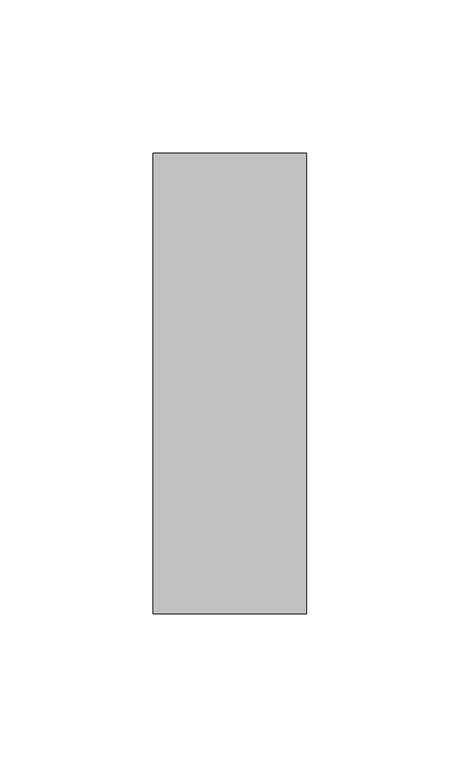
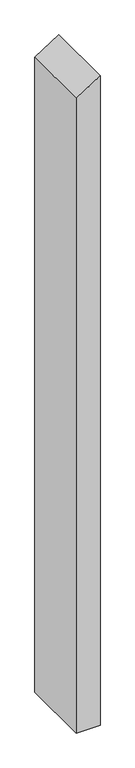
"""IFC4 building model written with IfcOpenShell, lengths in millimetres: member geometry, Прямоугольный импост : 50 x 150 мм."""

from ifc_helpers import new_model, si_unit, frame, origin, place, context, project, spatial, polyline, outline, extrude, source, transform, mapped, element, save


def member_1cecf3b3(model_context):
    return source(origin(), model_context, "Body", "SweptSolid", [
        extrude(outline(polyline([(0.0, 0.0), (-32.2412567, -50.0), (-1440.0, -50.0), (-1440.0, 0.0), (0.0, 0.0)])), frame((0.0, -75.0, 0.0), z_axis=(0.0, 1.0, 0.0), x_axis=(0.0, 0.0, 1.0)), (0.0, 0.0, 1.0), 150.0),
    ])


if __name__ == "__main__":
    model = new_model("IFC4")
    model_context = context("Model", 3, world=origin())
    ifc_project = project(units=[si_unit("LENGTHUNIT", "METRE", prefix="MILLI")], contexts=[model_context])
    site = spatial("IfcSite", under=ifc_project)
    building = spatial("IfcBuilding", under=site)
    placement = place(None, origin())
    member_shape = member_1cecf3b3(model_context)
    element("IfcMember", 1, ObjectType="Прямоугольный импост : 50 x 150 мм", at=placement, inside=building, context=model_context, shape_type="MappedRepresentation", body=[
        mapped(member_shape, transform((0.0, 0.0, 0.0), x_axis=(1.0, 0.0, 0.0), y_axis=(0.0, 1.0, 0.0), z_axis=(0.0, 0.0, 1.0))),
    ])
    save(model, "model.ifc")
